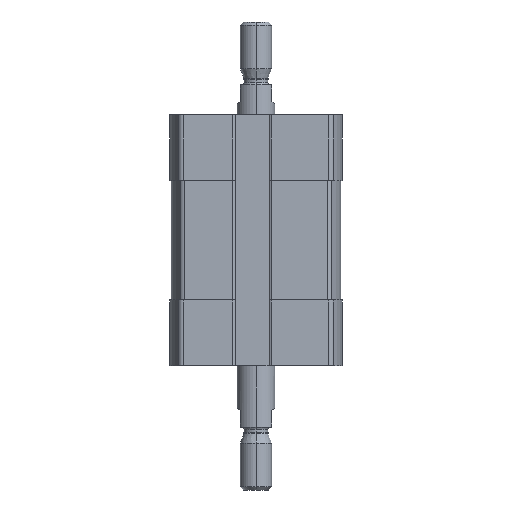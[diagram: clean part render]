
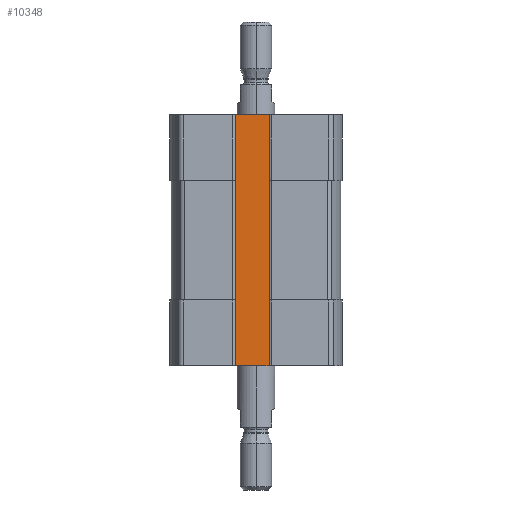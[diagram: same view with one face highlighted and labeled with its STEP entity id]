
A CAD part, left-side view. The second image highlights one B-rep face of the part: STEP entity #10348.
In plain terms, the highlighted planar face has unit normal (-1, 0, 0).
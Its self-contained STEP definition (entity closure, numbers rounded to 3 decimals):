
#1327 = VERTEX_POINT ( 'NONE', #7112 ) ;
#1772 = VECTOR ( 'NONE', #5638, 1000. ) ;
#2746 = DIRECTION ( 'NONE',  ( 0., -1., 0. ) ) ;
#3010 = EDGE_CURVE ( 'NONE', #1327, #11340, #3256, .T. ) ;
#3256 = LINE ( 'NONE', #3491, #10028 ) ;
#3436 = AXIS2_PLACEMENT_3D ( 'NONE', #3779, #11745, #5588 ) ;
#3491 = CARTESIAN_POINT ( 'NONE',  ( -8.3, 3.6, -40. ) ) ;
#3779 = CARTESIAN_POINT ( 'NONE',  ( -8.3, 3.6, -40. ) ) ;
#4124 = CARTESIAN_POINT ( 'NONE',  ( -8.3, 3.6, 0. ) ) ;
#4558 = CARTESIAN_POINT ( 'NONE',  ( -8.3, 3.6, -40. ) ) ;
#5175 = CARTESIAN_POINT ( 'NONE',  ( -8.3, -2.4, -40. ) ) ;
#5377 = LINE ( 'NONE', #6330, #8826 ) ;
#5588 = DIRECTION ( 'NONE',  ( 0., 0., 1. ) ) ;
#5638 = DIRECTION ( 'NONE',  ( 0., 0., 1. ) ) ;
#5966 = EDGE_CURVE ( 'NONE', #1327, #6039, #7227, .T. ) ;
#6039 = VERTEX_POINT ( 'NONE', #4124 ) ;
#6044 = CARTESIAN_POINT ( 'NONE',  ( -8.3, -2.4, -40. ) ) ;
#6211 = EDGE_LOOP ( 'NONE', ( #10710, #10243, #9971, #10022 ) ) ;
#6243 = DIRECTION ( 'NONE',  ( 0., 0., 1. ) ) ;
#6330 = CARTESIAN_POINT ( 'NONE',  ( -8.3, 3.6, 0. ) ) ;
#6354 = PLANE ( 'NONE',  #3436 ) ;
#6363 = EDGE_CURVE ( 'NONE', #6039, #8226, #5377, .T. ) ;
#7072 = DIRECTION ( 'NONE',  ( 0., -1., 0. ) ) ;
#7112 = CARTESIAN_POINT ( 'NONE',  ( -8.3, 3.6, -40. ) ) ;
#7144 = CARTESIAN_POINT ( 'NONE',  ( -8.3, -2.4, 0. ) ) ;
#7227 = LINE ( 'NONE', #4558, #1772 ) ;
#8123 = FACE_OUTER_BOUND ( 'NONE', #6211, .T. ) ;
#8226 = VERTEX_POINT ( 'NONE', #7144 ) ;
#8513 = EDGE_CURVE ( 'NONE', #11340, #8226, #10700, .T. ) ;
#8826 = VECTOR ( 'NONE', #2746, 1000. ) ;
#9971 = ORIENTED_EDGE ( 'NONE', *, *, #3010, .T. ) ;
#10022 = ORIENTED_EDGE ( 'NONE', *, *, #8513, .T. ) ;
#10028 = VECTOR ( 'NONE', #7072, 1000. ) ;
#10243 = ORIENTED_EDGE ( 'NONE', *, *, #5966, .F. ) ;
#10348 = ADVANCED_FACE ( 'NONE', ( #8123 ), #6354, .T. ) ;
#10700 = LINE ( 'NONE', #5175, #11184 ) ;
#10710 = ORIENTED_EDGE ( 'NONE', *, *, #6363, .F. ) ;
#11184 = VECTOR ( 'NONE', #6243, 1000. ) ;
#11340 = VERTEX_POINT ( 'NONE', #6044 ) ;
#11745 = DIRECTION ( 'NONE',  ( -1., 0., 0. ) ) ;
